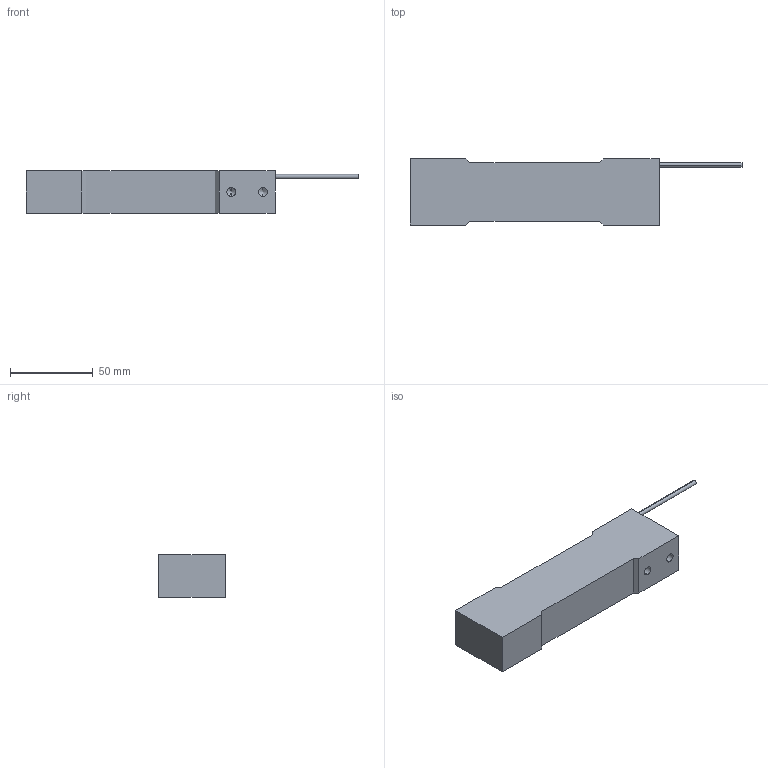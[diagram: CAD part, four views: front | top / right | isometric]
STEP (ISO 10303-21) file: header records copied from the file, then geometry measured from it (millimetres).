
FILE_DESCRIPTION (( 'STEP AP214' ), '1' );
FILE_NAME ('rrp1.STEP', '2012-07-09T22:49:37', ( '' ), ( '' ), 'SwSTEP 2.0', 'SolidWorks 2009', '' );
FILE_SCHEMA (( 'AUTOMOTIVE_DESIGN' ));
Length unit declared in the file: inch
Products named in the file (1): rrp1
Bounding box: 200.37 x 39.88 x 25.4 mm (x, y, z)
Volume: 141721.4 mm3; surface area: 22191.2 mm2
Topology: 1 solids, 1 shells, 33 faces, 82 edges, 48 vertices
Faces by surface type: plane 15, cylinder 10, cone 8
Entity records: 1047 total; most frequent: DIRECTION 162, CARTESIAN_POINT 156, ORIENTED_EDGE 148, EDGE_CURVE 74, AXIS2_PLACEMENT_3D 54, LINE 54, VECTOR 54, VERTEX_POINT 48
